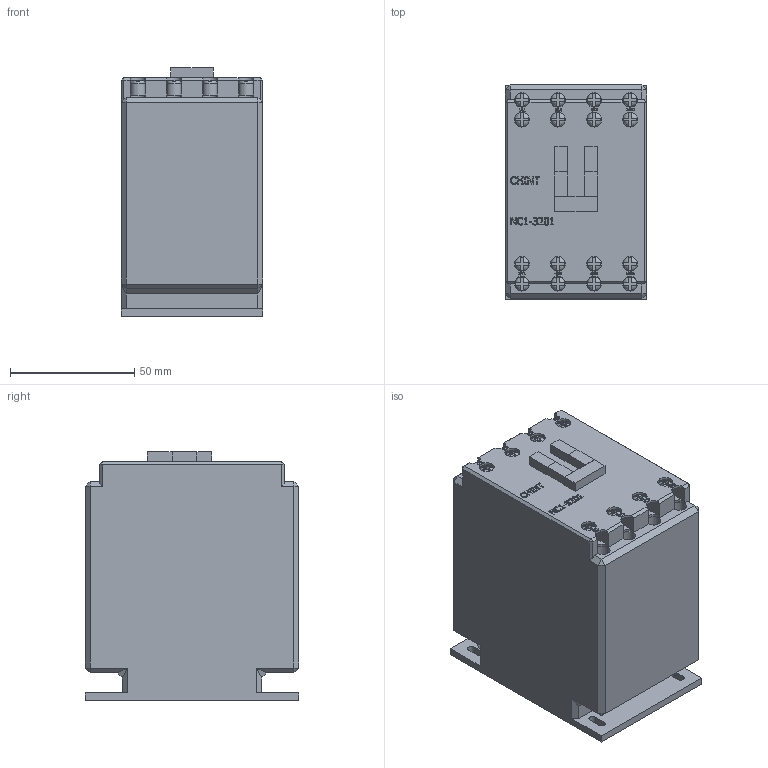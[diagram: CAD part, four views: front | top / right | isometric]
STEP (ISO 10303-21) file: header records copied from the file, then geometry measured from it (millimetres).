
FILE_DESCRIPTION(/* description */ (''),/* implementation_level */ '2;1');
FILE_NAME(/* name */ 'D:\CHINT2\NC1\NC1-3201 230В 50.stp',/* time_stamp */ '2017-11-12T20:21:11+03:00',/* author */ ('RSagdiev'),/* organization */ (''),/* preprocessor_version */ 'ST-DEVELOPER v16.5',/* originating_system */ 'Autodesk Inventor 2017',/* authorisation */ '');
FILE_SCHEMA (('AUTOMOTIVE_DESIGN { 1 0 10303 214 3 1 1 }'));
Length unit declared in the file: millimetre
Products named in the file (1): NC1-3201 230В 50
Bounding box: 57 x 86 x 100 mm (x, y, z)
Volume: 446934 mm3; surface area: 45110.7 mm2
Topology: 19 solids, 19 shells, 1069 faces, 2816 edges, 1840 vertices
Faces by surface type: plane 774, bspline 247, cylinder 48
Full cylindrical faces by diameter (mm): 5.8 x8, 6 x16
Entity records: 35509 total; most frequent: CARTESIAN_POINT 10756, ORIENTED_EDGE 5584, DIRECTION 4132, EDGE_CURVE 2792, LINE 1898, VECTOR 1898, VERTEX_POINT 1840, EDGE_LOOP 1172
